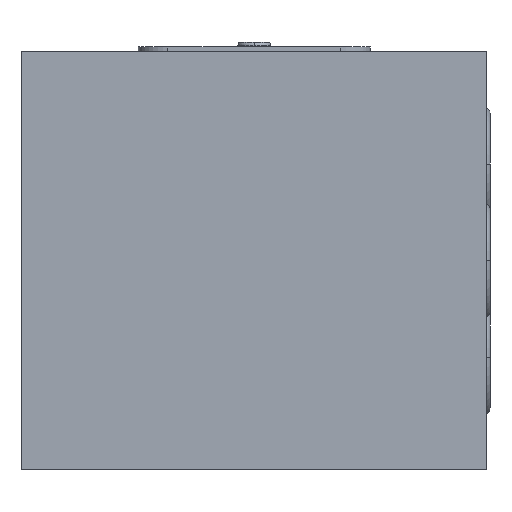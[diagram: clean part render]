
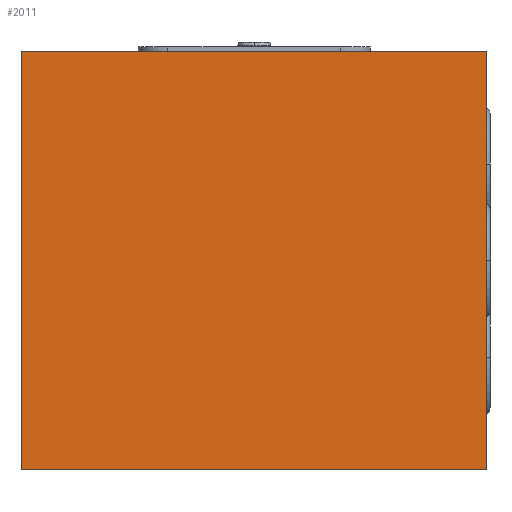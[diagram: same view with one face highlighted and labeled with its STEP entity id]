
A CAD part, left-side view. The second image highlights one B-rep face of the part: STEP entity #2011.
In plain terms, the highlighted planar face has unit normal (-1, 0, 0).
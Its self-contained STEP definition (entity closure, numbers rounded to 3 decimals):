
#52=DIRECTION('',(0.,0.,-1.));
#53=VECTOR('',#52,45.);
#54=CARTESIAN_POINT('',(0.,0.,0.));
#55=LINE('',#54,#53);
#59=DIRECTION('',(0.,1.,0.));
#60=VECTOR('',#59,50.);
#61=CARTESIAN_POINT('',(0.,0.,-45.));
#62=LINE('',#61,#60);
#66=DIRECTION('',(0.,0.,1.));
#67=VECTOR('',#66,45.);
#68=CARTESIAN_POINT('',(0.,50.,-45.));
#69=LINE('',#68,#67);
#73=DIRECTION('',(0.,-1.,0.));
#74=VECTOR('',#73,50.);
#75=CARTESIAN_POINT('',(0.,50.,0.));
#76=LINE('',#75,#74);
#1788=CARTESIAN_POINT('',(0.,0.,0.));
#1789=CARTESIAN_POINT('',(0.,0.,-45.));
#1790=VERTEX_POINT('',#1788);
#1791=VERTEX_POINT('',#1789);
#1792=CARTESIAN_POINT('',(0.,50.,-45.));
#1793=VERTEX_POINT('',#1792);
#1794=CARTESIAN_POINT('',(0.,50.,0.));
#1795=VERTEX_POINT('',#1794);
#1996=CARTESIAN_POINT('',(0.,0.,0.));
#1997=DIRECTION('',(1.,0.,0.));
#1998=DIRECTION('',(0.,0.,-1.));
#1999=AXIS2_PLACEMENT_3D('',#1996,#1997,#1998);
#2000=PLANE('',#1999);
#2002=ORIENTED_EDGE('',*,*,#2001,.T.);
#2004=ORIENTED_EDGE('',*,*,#2003,.T.);
#2006=ORIENTED_EDGE('',*,*,#2005,.T.);
#2008=ORIENTED_EDGE('',*,*,#2007,.T.);
#2009=EDGE_LOOP('',(#2002,#2004,#2006,#2008));
#2010=FACE_OUTER_BOUND('',#2009,.F.);
#2001=EDGE_CURVE('',#1790,#1791,#55,.T.);
#2003=EDGE_CURVE('',#1791,#1793,#62,.T.);
#2005=EDGE_CURVE('',#1793,#1795,#69,.T.);
#2007=EDGE_CURVE('',#1795,#1790,#76,.T.);
#2011=ADVANCED_FACE('',(#2010),#2000,.F.);
